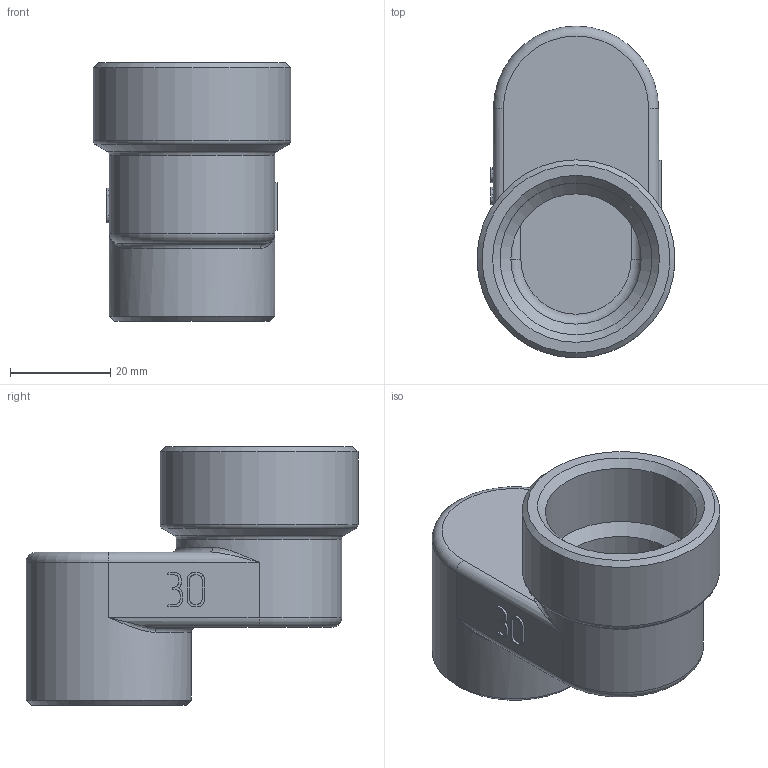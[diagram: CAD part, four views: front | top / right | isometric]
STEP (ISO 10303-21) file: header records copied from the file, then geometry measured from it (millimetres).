
FILE_DESCRIPTION(('STEP AP203'), '1');
FILE_NAME('ÂÐ.752289.015 - VTr.094.N.06030 - Ôèò. ðåçüá. ýêñö', '2024-06-21T11:55:11', ('Boss'), (''), 'C3D Converter', 'C3D Toolkit', '');
FILE_SCHEMA(('CONFIG_CONTROL_DESIGN'));
Length unit declared in the file: millimetre
Products named in the file (1): ВР.752289.015
Bounding box: 39.5 x 66.25 x 51.5 mm (x, y, z)
Volume: 28337.4 mm3; surface area: 15524.9 mm2
Topology: 1 solids, 1 shells, 131 faces, 341 edges, 210 vertices
Faces by surface type: plane 48, extrusion 44, cylinder 15, torus 11, bspline 8, cone 5
Full cylindrical faces by diameter (mm): 26 x2, 30.292 x1, 33 x2, 39.5 x1
Entity records: 4868 total; most frequent: CARTESIAN_POINT 1945, ORIENTED_EDGE 638, DIRECTION 457, EDGE_CURVE 319, VERTEX_POINT 210, VECTOR 209, LINE 165, B_SPLINE_CURVE_WITH_KNOTS 154
